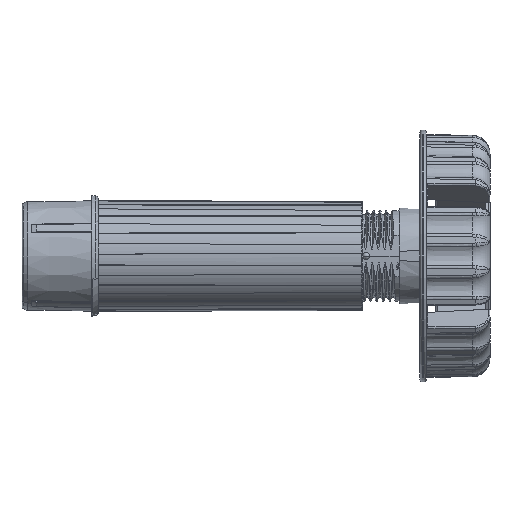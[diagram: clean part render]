
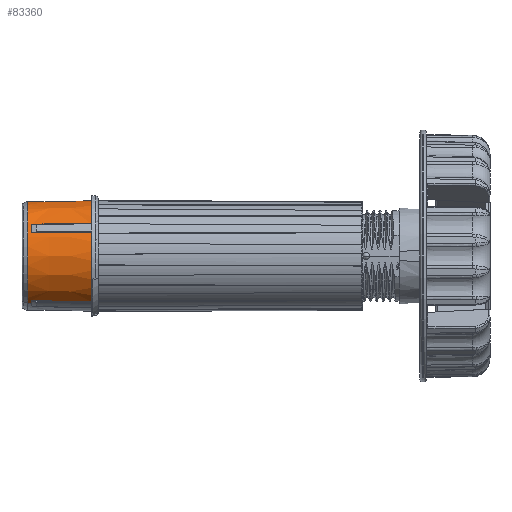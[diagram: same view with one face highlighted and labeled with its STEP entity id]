
A CAD part, left-side view. The second image highlights one B-rep face of the part: STEP entity #83360.
In plain terms, the highlighted conical face has half-angle 1 degrees and reference radius 17.285 mm.
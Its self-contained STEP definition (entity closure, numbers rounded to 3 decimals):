
#78003=CARTESIAN_POINT('',(0.,0.,0.));
#78004=DIRECTION('',(0.,-1.,0.));
#78005=DIRECTION('',(0.996,0.,0.086));
#78006=AXIS2_PLACEMENT_3D('',#78003,#78004,#78005);
#78008=CARTESIAN_POINT('',(0.,0.,0.));
#78009=DIRECTION('',(0.,-1.,0.));
#78010=DIRECTION('',(-0.086,0.,0.996));
#78011=AXIS2_PLACEMENT_3D('',#78008,#78009,#78010);
#78017=CARTESIAN_POINT('',(0.,19.,0.));
#78018=DIRECTION('',(0.,-1.,0.));
#78019=DIRECTION('',(1.,0.,0.));
#78020=AXIS2_PLACEMENT_3D('',#78017,#78018,#78019);
#78070=CARTESIAN_POINT('',(0.,19.,0.));
#78071=DIRECTION('',(0.,-1.,0.));
#78072=DIRECTION('',(0.088,0.,0.996));
#78073=AXIS2_PLACEMENT_3D('',#78070,#78071,#78072);
#78085=CARTESIAN_POINT('',(-1.5,0.,17.395));
#78086=CARTESIAN_POINT('',(-1.5,2.117,17.358));
#78087=CARTESIAN_POINT('',(-1.5,6.347,17.284));
#78088=CARTESIAN_POINT('',(-1.5,12.68,17.173));
#78089=CARTESIAN_POINT('',(-1.5,16.895,17.099));
#78090=CARTESIAN_POINT('',(-1.5,19.,17.063));
#78179=CARTESIAN_POINT('',(1.5,19.,17.063));
#78180=CARTESIAN_POINT('',(1.5,16.895,17.099));
#78181=CARTESIAN_POINT('',(1.5,12.681,17.173));
#78182=CARTESIAN_POINT('',(1.5,6.347,17.284));
#78183=CARTESIAN_POINT('',(1.5,2.117,17.358));
#78184=CARTESIAN_POINT('',(1.5,0.,17.395));
#82271=CARTESIAN_POINT('',(0.,20.09,0.));
#82272=DIRECTION('',(0.,-1.,0.));
#82273=DIRECTION('',(1.,0.,0.));
#82274=AXIS2_PLACEMENT_3D('',#82271,#82272,#82273);
#82276=DIRECTION('',(-0.017,1.,0.));
#82277=VECTOR('',#82276,1.09);
#82278=CARTESIAN_POINT('',(17.128,19.,0.));
#82279=LINE('',#82278,#82277);
#82280=DIRECTION('',(0.017,1.,0.));
#82281=VECTOR('',#82280,1.09);
#82282=CARTESIAN_POINT('',(-17.128,19.,0.));
#82283=LINE('',#82282,#82281);
#82303=CARTESIAN_POINT('',(0.,19.,0.));
#82304=DIRECTION('',(0.,-1.,0.));
#82305=DIRECTION('',(-0.996,0.,0.088));
#82306=AXIS2_PLACEMENT_3D('',#82303,#82304,#82305);
#82412=CARTESIAN_POINT('',(-17.063,19.,1.5));
#82413=CARTESIAN_POINT('',(-17.099,16.895,1.5));
#82414=CARTESIAN_POINT('',(-17.173,12.681,1.5));
#82415=CARTESIAN_POINT('',(-17.284,6.347,1.5));
#82416=CARTESIAN_POINT('',(-17.358,2.117,1.5));
#82417=CARTESIAN_POINT('',(-17.395,0.,1.5));
#82644=CARTESIAN_POINT('',(17.395,0.,1.5));
#82645=CARTESIAN_POINT('',(17.358,2.117,1.5));
#82646=CARTESIAN_POINT('',(17.284,6.347,1.5));
#82647=CARTESIAN_POINT('',(17.173,12.68,1.5));
#82648=CARTESIAN_POINT('',(17.099,16.895,1.5));
#82649=CARTESIAN_POINT('',(17.063,19.,1.5));
#82713=CARTESIAN_POINT('',(17.109,20.09,0.));
#82714=CARTESIAN_POINT('',(-17.109,20.09,0.));
#82715=VERTEX_POINT('',#82713);
#82716=VERTEX_POINT('',#82714);
#82717=CARTESIAN_POINT('',(1.5,19.,17.063));
#82718=CARTESIAN_POINT('',(-1.5,19.,17.063));
#82719=VERTEX_POINT('',#82717);
#82720=VERTEX_POINT('',#82718);
#82721=VERTEX_POINT('',#78085);
#82722=VERTEX_POINT('',#78184);
#82723=CARTESIAN_POINT('',(-17.063,19.,1.5));
#82724=CARTESIAN_POINT('',(-17.128,19.,0.));
#82725=VERTEX_POINT('',#82723);
#82726=VERTEX_POINT('',#82724);
#82727=VERTEX_POINT('',#82417);
#82737=CARTESIAN_POINT('',(17.128,19.,0.));
#82738=CARTESIAN_POINT('',(17.063,19.,1.5));
#82739=VERTEX_POINT('',#82737);
#82740=VERTEX_POINT('',#82738);
#82741=VERTEX_POINT('',#82644);
#83329=CARTESIAN_POINT('',(0.,10.045,0.));
#83330=DIRECTION('',(0.,-1.,0.));
#83331=DIRECTION('',(-1.,0.,0.));
#83332=AXIS2_PLACEMENT_3D('',#83329,#83330,#83331);
#83333=CONICAL_SURFACE('',#83332,17.285,1.);
#83335=ORIENTED_EDGE('',*,*,#83334,.T.);
#83337=ORIENTED_EDGE('',*,*,#83336,.F.);
#83339=ORIENTED_EDGE('',*,*,#83338,.T.);
#83341=ORIENTED_EDGE('',*,*,#83340,.F.);
#83343=ORIENTED_EDGE('',*,*,#83342,.T.);
#83345=ORIENTED_EDGE('',*,*,#83344,.F.);
#83347=ORIENTED_EDGE('',*,*,#83346,.T.);
#83349=ORIENTED_EDGE('',*,*,#83348,.F.);
#83351=ORIENTED_EDGE('',*,*,#83350,.T.);
#83353=ORIENTED_EDGE('',*,*,#83352,.T.);
#83355=ORIENTED_EDGE('',*,*,#83354,.F.);
#83357=ORIENTED_EDGE('',*,*,#83356,.F.);
#83358=EDGE_LOOP('',(#83335,#83337,#83339,#83341,#83343,#83345,#83347,#83349,
#83351,#83353,#83355,#83357));
#83359=FACE_OUTER_BOUND('',#83358,.F.);
#83360=ADVANCED_FACE('',(#83359),#83333,.T.);
#78007=CIRCLE('',#78006,17.46);
#78012=CIRCLE('',#78011,17.46);
#78021=CIRCLE('',#78020,17.128);
#78074=CIRCLE('',#78073,17.128);
#78091=B_SPLINE_CURVE_WITH_KNOTS('',3,(#78085,#78086,#78087,#78088,#78089,
#78090),.UNSPECIFIED.,.F.,.F.,(4,1,1,4),(0.,0.333,
0.667,1.),.UNSPECIFIED.);
#78185=B_SPLINE_CURVE_WITH_KNOTS('',3,(#78179,#78180,#78181,#78182,#78183,
#78184),.UNSPECIFIED.,.F.,.F.,(4,1,1,4),(0.,0.333,
0.667,1.),.UNSPECIFIED.);
#82275=CIRCLE('',#82274,17.109);
#82307=CIRCLE('',#82306,17.128);
#82418=B_SPLINE_CURVE_WITH_KNOTS('',3,(#82412,#82413,#82414,#82415,#82416,
#82417),.UNSPECIFIED.,.F.,.F.,(4,1,1,4),(0.,0.333,
0.667,1.),.UNSPECIFIED.);
#82650=B_SPLINE_CURVE_WITH_KNOTS('',3,(#82644,#82645,#82646,#82647,#82648,
#82649),.UNSPECIFIED.,.F.,.F.,(4,1,1,4),(0.,0.333,
0.667,1.),.UNSPECIFIED.);
#83334=EDGE_CURVE('',#82739,#82740,#78021,.T.);
#83336=EDGE_CURVE('',#82741,#82740,#82650,.T.);
#83338=EDGE_CURVE('',#82741,#82722,#78007,.T.);
#83340=EDGE_CURVE('',#82719,#82722,#78185,.T.);
#83342=EDGE_CURVE('',#82719,#82720,#78074,.T.);
#83344=EDGE_CURVE('',#82721,#82720,#78091,.T.);
#83346=EDGE_CURVE('',#82721,#82727,#78012,.T.);
#83348=EDGE_CURVE('',#82725,#82727,#82418,.T.);
#83350=EDGE_CURVE('',#82725,#82726,#82307,.T.);
#83352=EDGE_CURVE('',#82726,#82716,#82283,.T.);
#83354=EDGE_CURVE('',#82715,#82716,#82275,.T.);
#83356=EDGE_CURVE('',#82739,#82715,#82279,.T.);
